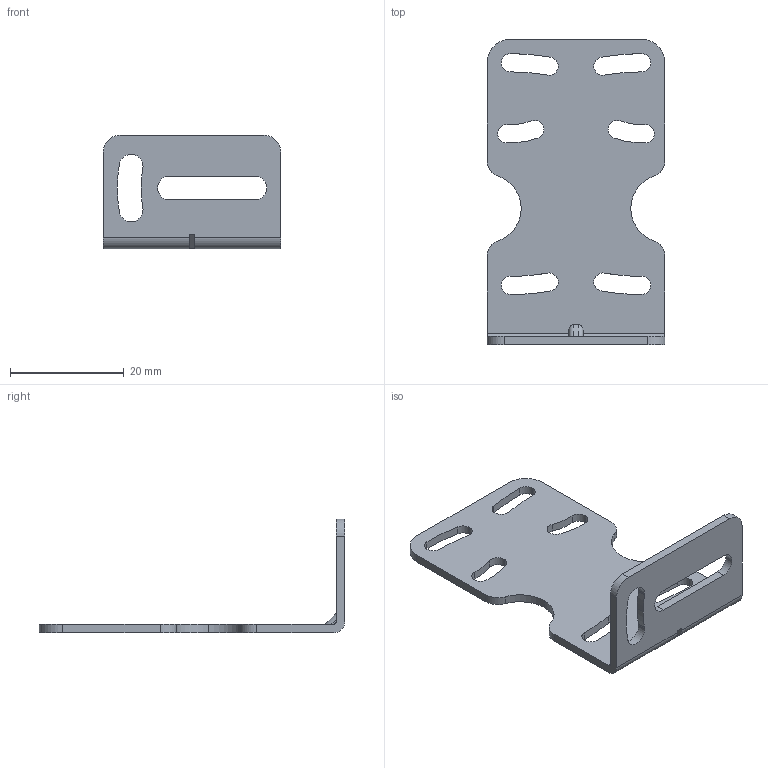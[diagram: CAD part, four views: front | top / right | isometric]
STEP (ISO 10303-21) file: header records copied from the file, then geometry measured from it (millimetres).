
FILE_DESCRIPTION(('CoCreate Modeling STEP Export'),'2;1');
FILE_NAME('BEF-WK-190.stp','2013-11-07T 9:12:24',(''),(''),'CoCreate Modeling STEP processor for AP214 (Solid Model)','CoCreate Modeling 16.50A 01-Dec-2009 (C) Parametric Technology GmbH','');
FILE_SCHEMA(('AUTOMOTIVE_DESIGN { 1 0 10303 214 1 1 1 1 }'));
Length unit declared in the file: millimetre
Products named in the file (1): BEF-WK-190
Bounding box: 31.3 x 53.8 x 20 mm (x, y, z)
Volume: 2742.1 mm3; surface area: 4283.3 mm2
Topology: 1 solids, 1 shells, 84 faces, 246 edges, 164 vertices
Faces by surface type: cylinder 66, plane 18
Entity records: 2572 total; most frequent: ORIENTED_EDGE 492, CARTESIAN_POINT 425, DIRECTION 414, EDGE_CURVE 246, VERTEX_POINT 164, AXIS2_PLACEMENT_3D 153, VECTOR 108, LINE 108
